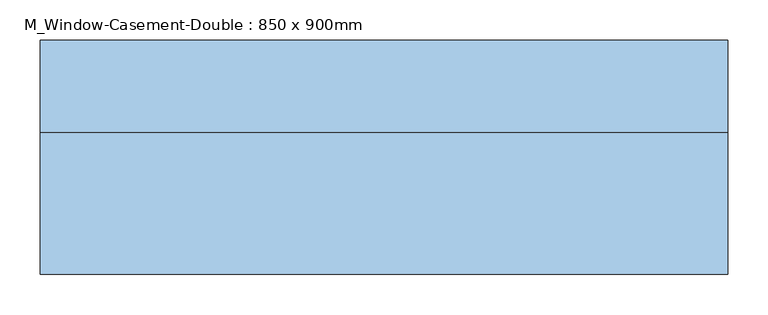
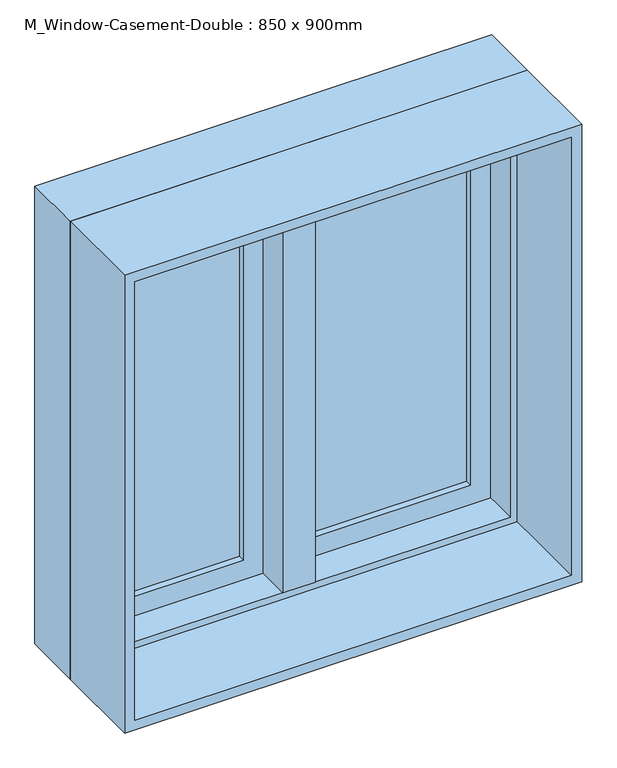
"""IFC4 building model written with IfcOpenShell, lengths in millimetres: window geometry, M_Window-Casement-Double : 850 x 900mm."""

from ifc_helpers import new_model, si_unit, frame, origin, place, context, project, spatial, polyline, outline, extrude, faceted_brep, source, transform, mapped, element, save


def m_window_casement_double_850_x_900mm_a8c8f556(model_context):
    return source(origin(), model_context, "Body", "SolidModel", [
        faceted_brep([(9.525, 154.05, 1787.3), (-9.525, 154.05, 1787.3), (-9.525, 103.25, 1787.3), (9.525, 103.25, 1787.3), (9.525, 154.05, 912.7), (9.525, 103.25, 912.7), (-9.525, 103.25, 912.7), (-9.525, 154.05, 912.7), (-9.525, 103.25, 931.75), (-9.525, 103.25, 1768.25), (-30.1625, 103.25, 931.75), (-30.1625, 103.25, 1768.25), (-30.1625, 39.75, 931.75), (-30.1625, 39.75, 1768.25), (30.1625, 39.75, 931.75), (30.1625, 39.75, 1768.25), (30.1625, 103.25, 931.75), (30.1625, 103.25, 1768.25), (9.525, 103.25, 931.75), (9.525, 103.25, 1768.25)], [[[0, 1, 2, 3]], [[4, 5, 6, 7]], [[1, 0, 4, 7]], [[2, 1, 7, 6, 8, 9]], [[9, 8, 10, 11]], [[11, 10, 12, 13]], [[13, 12, 14, 15]], [[15, 14, 16, 17]], [[17, 16, 18, 19]], [[0, 3, 19, 18, 5, 4]], [[18, 8, 6, 5]], [[9, 19, 3, 2]], [[8, 18, 16, 14, 12, 10]], [[19, 9, 11, 13, 15, 17]]]),
        extrude(outline(polyline([(-66.675, 135.0), (-66.675, 128.65), (-355.15, 128.65), (-355.15, 135.0), (-66.675, 135.0)])), frame((0.0, 0.0, 969.85), z_axis=(0.0, 0.0, 1.0), x_axis=(1.0, 0.0, 0.0)), (0.0, 0.0, 1.0), 760.3),
        extrude(outline(polyline([(-355.15, 115.95), (-355.15, 122.3), (-66.675, 122.3), (-66.675, 115.95), (-355.15, 115.95)])), frame((0.0, 0.0, 969.85), z_axis=(0.0, 0.0, 1.0), x_axis=(1.0, 0.0, 0.0)), (0.0, 0.0, 1.0), 760.3),
        extrude(outline(polyline([(355.15, 135.0), (355.15, 128.65), (66.675, 128.65), (66.675, 135.0), (355.15, 135.0)])), frame((0.0, 0.0, 969.85), z_axis=(0.0, 0.0, 1.0), x_axis=(1.0, 0.0, 0.0)), (0.0, 0.0, 1.0), 760.3),
        extrude(outline(polyline([(66.675, 115.95), (66.675, 122.3), (355.15, 122.3), (355.15, 115.95), (66.675, 115.95)])), frame((0.0, 0.0, 969.85), z_axis=(0.0, 0.0, 1.0), x_axis=(1.0, 0.0, 0.0)), (0.0, 0.0, 1.0), 760.3),
        extrude(outline(polyline([(1787.3, -412.3), (912.7, -412.3), (912.7, -9.525), (1787.3, -9.525), (1787.3, -412.3)]), holes=[polyline([(1730.15, -66.675), (969.85, -66.675), (969.85, -355.15), (1730.15, -355.15), (1730.15, -66.675)])]), frame((0.0, 103.25, 0.0), z_axis=(0.0, 1.0, 0.0), x_axis=(0.0, 0.0, 1.0)), (0.0, 0.0, 1.0), 44.45),
        extrude(outline(polyline([(912.7, 412.3), (1787.3, 412.3), (1787.3, 9.525), (912.7, 9.525), (912.7, 412.3)]), holes=[polyline([(969.85, 66.675), (1730.15, 66.675), (1730.15, 355.15), (969.85, 355.15), (969.85, 66.675)])]), frame((0.0, 103.25, 0.0), z_axis=(0.0, 1.0, 0.0), x_axis=(0.0, 0.0, 1.0)), (0.0, 0.0, 1.0), 44.45),
        extrude(outline(polyline([(1800.0, -425.0), (900.0, -425.0), (900.0, 425.0), (1800.0, 425.0), (1800.0, -425.0)]), holes=[polyline([(1780.95, 405.95), (919.05, 405.95), (919.05, -405.95), (1780.95, -405.95), (1780.95, 405.95)])]), frame((0.0, -135.0, 0.0), z_axis=(0.0, 1.0, 0.0), x_axis=(0.0, 0.0, 1.0)), (0.0, 0.0, 1.0), 174.75),
        faceted_brep([(393.25, 103.25, 1768.25), (393.25, 39.75, 1768.25), (-393.25, 39.75, 1768.25), (-393.25, 103.25, 1768.25), (412.3, 154.05, 1787.3), (412.3, 103.25, 1787.3), (-412.3, 103.25, 1787.3), (-412.3, 154.05, 1787.3), (425.0, 39.75, 1800.0), (425.0, 154.05, 1800.0), (-425.0, 154.05, 1800.0), (-425.0, 39.75, 1800.0), (-393.25, 39.75, 931.75), (-393.25, 103.25, 931.75), (-412.3, 103.25, 912.7), (-412.3, 154.05, 912.7), (-425.0, 154.05, 900.0), (-425.0, 39.75, 900.0), (393.25, 39.75, 931.75), (393.25, 103.25, 931.75), (412.3, 103.25, 912.7), (412.3, 154.05, 912.7), (425.0, 154.05, 900.0), (425.0, 39.75, 900.0)], [[[0, 1, 2, 3]], [[4, 5, 6, 7]], [[8, 9, 10, 11]], [[3, 2, 12, 13]], [[7, 6, 14, 15]], [[11, 10, 16, 17]], [[13, 12, 18, 19]], [[15, 14, 20, 21]], [[17, 16, 22, 23]], [[11, 17, 23, 8], [1, 18, 12, 2]], [[19, 18, 1, 0]], [[5, 20, 14, 6], [3, 13, 19, 0]], [[21, 20, 5, 4]], [[23, 22, 9, 8]], [[9, 22, 16, 10], [7, 15, 21, 4]]]),
    ])


if __name__ == "__main__":
    model = new_model("IFC4")
    model_context = context("Model", 3, world=origin())
    ifc_project = project(units=[si_unit("LENGTHUNIT", "METRE", prefix="MILLI")], contexts=[model_context])
    site = spatial("IfcSite", under=ifc_project)
    building = spatial("IfcBuilding", under=site)
    placement = place(None, origin())
    m_window_casement_double_850_x_900mm_shape = m_window_casement_double_850_x_900mm_a8c8f556(model_context)
    element("IfcWindow", 1, ObjectType="M_Window-Casement-Double : 850 x 900mm", at=placement, inside=building, context=model_context, shape_type="MappedRepresentation", body=[
        mapped(m_window_casement_double_850_x_900mm_shape, transform((0.0, 0.0, 0.0), x_axis=(1.0, 0.0, 0.0), y_axis=(0.0, 1.0, 0.0), z_axis=(0.0, 0.0, 1.0))),
    ])
    save(model, "model.ifc")
